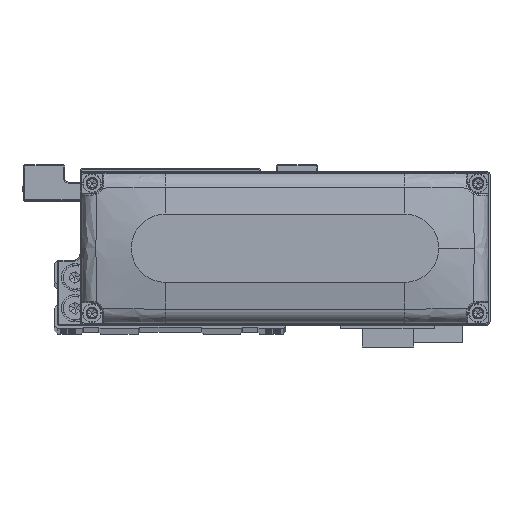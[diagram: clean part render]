
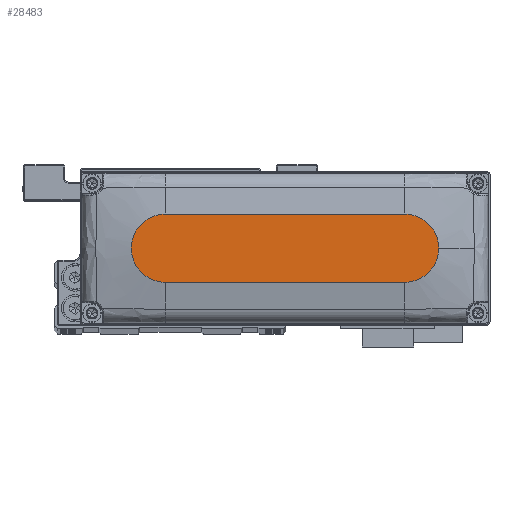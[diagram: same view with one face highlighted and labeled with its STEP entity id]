
A CAD part, top view. The second image highlights one B-rep face of the part: STEP entity #28483.
In plain terms, the highlighted planar face has unit normal (0, 0, 1).
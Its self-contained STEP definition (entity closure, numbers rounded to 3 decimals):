
#257 = CARTESIAN_POINT ( 'NONE',  ( -35., -10., 28. ) ) ;
#389 = CARTESIAN_POINT ( 'NONE',  ( 0., 0., 28. ) ) ;
#499 = EDGE_CURVE ( 'NONE', #7245, #4136, #21168, .T. ) ;
#609 = VECTOR ( 'NONE', #36105, 1000. ) ;
#2693 = CARTESIAN_POINT ( 'NONE',  ( -35., -10., 28. ) ) ;
#4136 = VERTEX_POINT ( 'NONE', #30134 ) ;
#5507 = AXIS2_PLACEMENT_3D ( 'NONE', #40809, #11690, #24656 ) ;
#5545 = EDGE_CURVE ( 'NONE', #19482, #7245, #23836, .T. ) ;
#7245 = VERTEX_POINT ( 'NONE', #37353 ) ;
#7316 = CARTESIAN_POINT ( 'NONE',  ( 35., -10., 28. ) ) ;
#8466 = VERTEX_POINT ( 'NONE', #31415 ) ;
#8781 = AXIS2_PLACEMENT_3D ( 'NONE', #389, #13345, #26312 ) ;
#9796 = DIRECTION ( 'NONE',  ( 0., 0., 1. ) ) ;
#10059 = CIRCLE ( 'NONE', #15486, 10. ) ;
#10171 = LINE ( 'NONE', #23137, #609 ) ;
#10731 = EDGE_CURVE ( 'NONE', #37249, #19482, #29383, .T. ) ;
#11690 = DIRECTION ( 'NONE',  ( 0., 0., 1. ) ) ;
#12447 = CARTESIAN_POINT ( 'NONE',  ( -35., 0., 28. ) ) ;
#13223 = DIRECTION ( 'NONE',  ( 1., 0., 0. ) ) ;
#13345 = DIRECTION ( 'NONE',  ( 0., 0., 1. ) ) ;
#14345 = ORIENTED_EDGE ( 'NONE', *, *, #33671, .T. ) ;
#14369 = ORIENTED_EDGE ( 'NONE', *, *, #16576, .T. ) ;
#15230 = VECTOR ( 'NONE', #13223, 1000. ) ;
#15486 = AXIS2_PLACEMENT_3D ( 'NONE', #12447, #25422, #38374 ) ;
#16547 = FACE_OUTER_BOUND ( 'NONE', #36614, .T. ) ;
#16576 = EDGE_CURVE ( 'NONE', #4136, #8466, #10171, .T. ) ;
#18022 = ORIENTED_EDGE ( 'NONE', *, *, #5545, .T. ) ;
#19482 = VERTEX_POINT ( 'NONE', #7316 ) ;
#21168 = CIRCLE ( 'NONE', #26602, 10. ) ;
#22749 = DIRECTION ( 'NONE',  ( 1., 0., 0. ) ) ;
#23137 = CARTESIAN_POINT ( 'NONE',  ( -35., 10., 28. ) ) ;
#23836 = CIRCLE ( 'NONE', #5507, 10. ) ;
#24656 = DIRECTION ( 'NONE',  ( 1., 0., 0. ) ) ;
#25422 = DIRECTION ( 'NONE',  ( 0., 0., 1. ) ) ;
#26312 = DIRECTION ( 'NONE',  ( 1., 0., 0. ) ) ;
#26602 = AXIS2_PLACEMENT_3D ( 'NONE', #38911, #9796, #22749 ) ;
#28483 = ADVANCED_FACE ( 'NONE', ( #16547 ), #29528, .T. ) ;
#29383 = LINE ( 'NONE', #257, #15230 ) ;
#29528 = PLANE ( 'NONE',  #8781 ) ;
#30134 = CARTESIAN_POINT ( 'NONE',  ( 35., 10., 28. ) ) ;
#31415 = CARTESIAN_POINT ( 'NONE',  ( -35., 10., 28. ) ) ;
#31508 = ORIENTED_EDGE ( 'NONE', *, *, #10731, .T. ) ;
#33671 = EDGE_CURVE ( 'NONE', #8466, #37249, #10059, .T. ) ;
#35005 = ORIENTED_EDGE ( 'NONE', *, *, #499, .T. ) ;
#36105 = DIRECTION ( 'NONE',  ( -1., 0., 0. ) ) ;
#36614 = EDGE_LOOP ( 'NONE', ( #14369, #14345, #31508, #18022, #35005 ) ) ;
#37249 = VERTEX_POINT ( 'NONE', #2693 ) ;
#37353 = CARTESIAN_POINT ( 'NONE',  ( 45., 0., 28. ) ) ;
#38374 = DIRECTION ( 'NONE',  ( 1., 0., 0. ) ) ;
#38911 = CARTESIAN_POINT ( 'NONE',  ( 35., 0., 28. ) ) ;
#40809 = CARTESIAN_POINT ( 'NONE',  ( 35., 0., 28. ) ) ;
